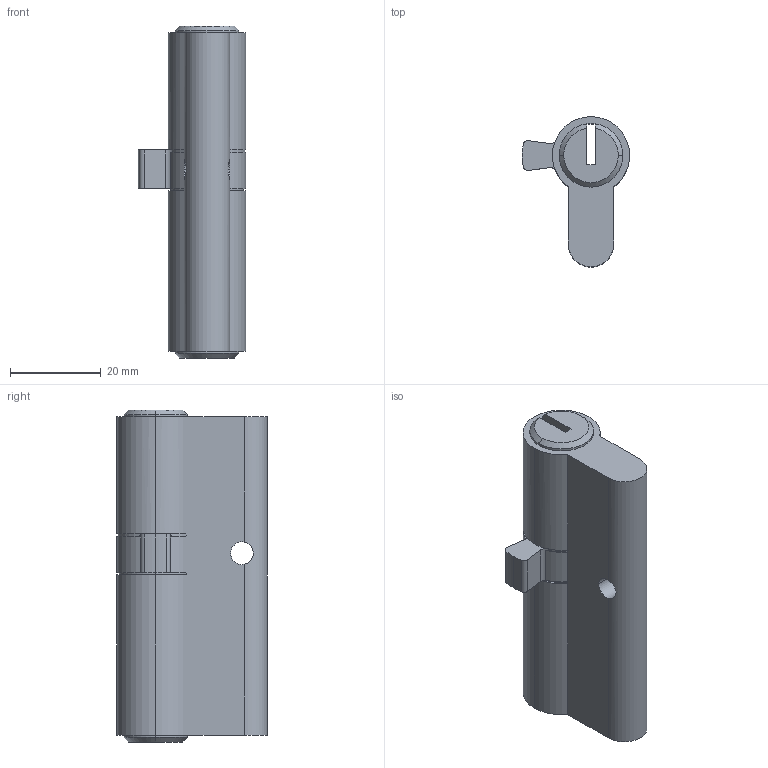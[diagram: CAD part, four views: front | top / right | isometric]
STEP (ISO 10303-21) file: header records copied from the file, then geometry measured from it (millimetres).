
FILE_DESCRIPTION (( 'STEP AP214' ), '1' );
FILE_NAME ('TPL-H-EU-517-R 29Oct2024.STEP', '2024-10-29T22:24:26', ( '' ), ( '' ), 'SwSTEP 2.0', 'SolidWorks 2023', '' );
FILE_SCHEMA (( 'AUTOMOTIVE_DESIGN' ));
Length unit declared in the file: millimetre
Products named in the file (1): TPL-H-EU-517-R 29Oct2024
Bounding box: 23.6 x 33 x 73 mm (x, y, z)
Volume: 26057.5 mm3; surface area: 8632.4 mm2
Topology: 1 solids, 1 shells, 52 faces, 144 edges, 90 vertices
Faces by surface type: cylinder 30, plane 16, cone 6
Entity records: 1775 total; most frequent: CARTESIAN_POINT 363, DIRECTION 314, ORIENTED_EDGE 288, EDGE_CURVE 144, AXIS2_PLACEMENT_3D 125, VERTEX_POINT 90, CIRCLE 72, VECTOR 64
